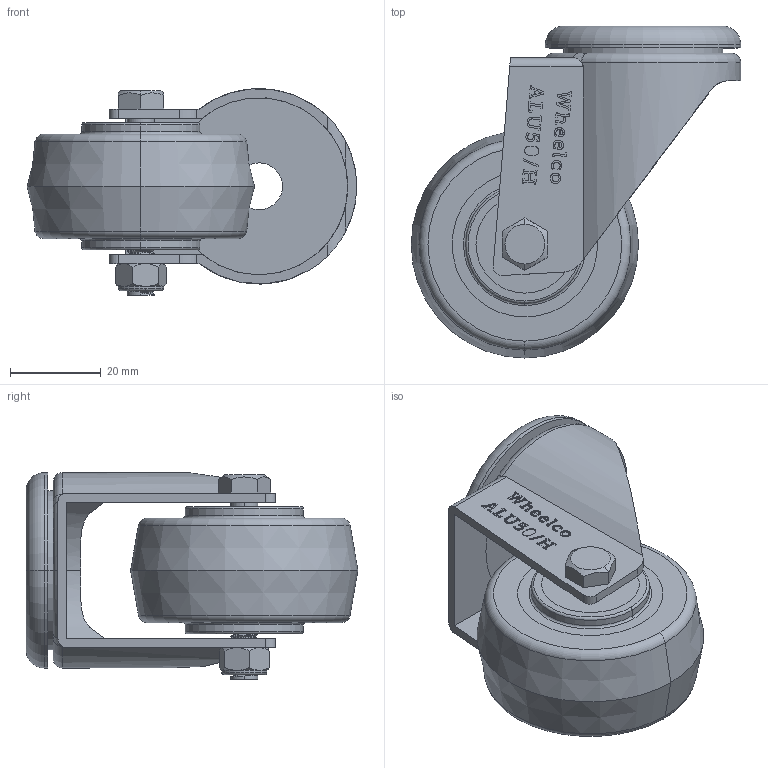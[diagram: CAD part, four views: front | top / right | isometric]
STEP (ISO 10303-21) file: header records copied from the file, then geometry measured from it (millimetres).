
FILE_DESCRIPTION (( 'STEP AP214' ), '1' );
FILE_NAME ('ALU50-H.step', '2024-01-18T00:20:40', ( '' ), ( '' ), 'SwSTEP 2.0', 'SolidWorks 2022', '' );
FILE_SCHEMA (( 'AUTOMOTIVE_DESIGN' ));
Length unit declared in the file: millimetre
Products named in the file (5): ALU50-H; M6NYLOC-WHITE; ALU50-H-10MM; ALU 50MM WHEEL; M6x45
Assembly tree (4 placements, depth 2):
  ALU50-H
    ALU50-H-10MM
    M6x45
    M6NYLOC-WHITE
    ALU 50MM WHEEL
Bounding box: 72.5 x 73 x 45.5 mm (x, y, z)
Volume: 61577 mm3; surface area: 21862.6 mm2
Topology: 4 solids, 4 shells, 421 faces, 1110 edges, 729 vertices
Faces by surface type: plane 220, bspline 80, cylinder 79, torus 22, cone 20
Entity records: 20787 total; most frequent: CARTESIAN_POINT 10660, ORIENTED_EDGE 2220, DIRECTION 1676, EDGE_CURVE 1110, VERTEX_POINT 729, LINE 674, VECTOR 674, AXIS2_PLACEMENT_3D 501
